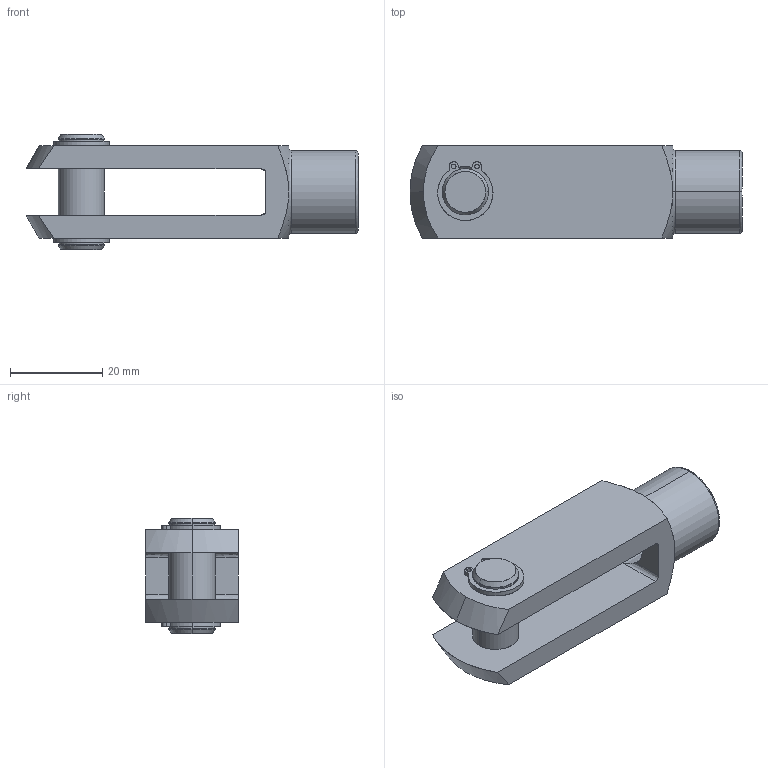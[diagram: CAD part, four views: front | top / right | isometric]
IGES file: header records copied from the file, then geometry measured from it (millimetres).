
Start section: SolidWorks IGES file using analytic representation for surfaces
Global section: file name: C:\Documents and Settings\IANO\My Documents\Wix and Auto CAD Work\CAD Models\Parametric Models\Wix Models\60000\65614_v2\65614_v2_IGES\65614.W0104.igs; native system: SolidWorks 2009; preprocessor: SolidWorks 2009; author: IANO; date: 140118.103955; units: millimetre
Bounding box: 72 x 20 x 25 mm (x, y, z)
Surface area: 8587 mm2 (no closed solid volume)
Topology: 0 solids, 0 shells, 95 faces, 1528 edges, 1528 vertices
Faces by surface type: revolution 63, bspline 32
